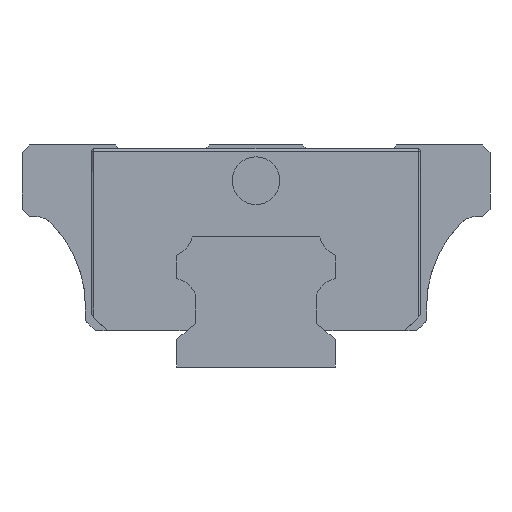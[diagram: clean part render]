
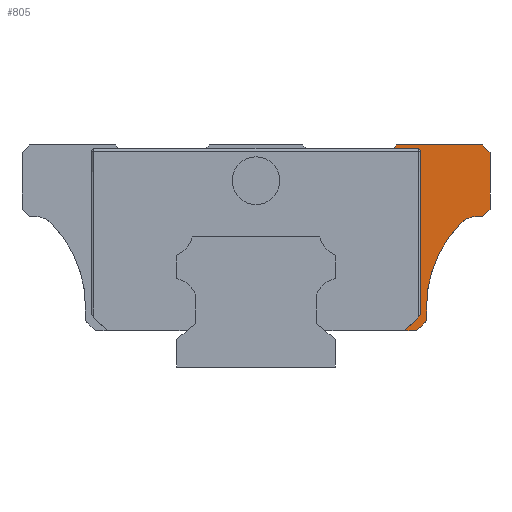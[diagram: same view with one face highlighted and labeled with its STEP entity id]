
A CAD part, left-side view. The second image highlights one B-rep face of the part: STEP entity #805.
In plain terms, the highlighted planar face has unit normal (-1, 0, 0).
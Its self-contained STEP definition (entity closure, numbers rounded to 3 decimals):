
#68 = CARTESIAN_POINT ( 'NONE',  ( -13.9, -21.5, 7.6 ) ) ;
#152 = CARTESIAN_POINT ( 'NONE',  ( -13.9, -20.25, 4.6 ) ) ;
#168 = VERTEX_POINT ( 'NONE', #1798 ) ;
#263 = ORIENTED_EDGE ( 'NONE', *, *, #3553, .T. ) ;
#288 = EDGE_CURVE ( 'NONE', #2366, #2826, #7040, .T. ) ;
#617 = DIRECTION ( 'NONE',  ( -1., 0., 0. ) ) ;
#621 = CARTESIAN_POINT ( 'NONE',  ( -13.9, -18.746, 4.6 ) ) ;
#660 = ORIENTED_EDGE ( 'NONE', *, *, #5706, .T. ) ;
#805 = ADVANCED_FACE ( 'NONE', ( #3978 ), #3363, .T. ) ;
#956 = EDGE_CURVE ( 'NONE', #6776, #2366, #2479, .T. ) ;
#976 = CARTESIAN_POINT ( 'NONE',  ( -13.9, -29.5, 27.05 ) ) ;
#1024 = DIRECTION ( 'NONE',  ( 0., 0., 1. ) ) ;
#1087 = VECTOR ( 'NONE', #3641, 1000. ) ;
#1130 = ORIENTED_EDGE ( 'NONE', *, *, #956, .T. ) ;
#1137 = EDGE_CURVE ( 'NONE', #5057, #4165, #6447, .T. ) ;
#1188 = DIRECTION ( 'NONE',  ( 0., 0., 1. ) ) ;
#1273 = DIRECTION ( 'NONE',  ( 0., 0., 1. ) ) ;
#1277 = EDGE_CURVE ( 'NONE', #3721, #3193, #3575, .T. ) ;
#1295 = CARTESIAN_POINT ( 'NONE',  ( -13.9, -21.5, 7.6 ) ) ;
#1302 = EDGE_CURVE ( 'NONE', #6923, #1640, #4160, .T. ) ;
#1323 = DIRECTION ( 'NONE',  ( 0., 1., 0. ) ) ;
#1326 = ORIENTED_EDGE ( 'NONE', *, *, #2331, .F. ) ;
#1353 = CARTESIAN_POINT ( 'NONE',  ( -13.9, -27.93, 16. ) ) ;
#1436 = VERTEX_POINT ( 'NONE', #1295 ) ;
#1437 = VERTEX_POINT ( 'NONE', #4550 ) ;
#1494 = LINE ( 'NONE', #3764, #2635 ) ;
#1586 = VECTOR ( 'NONE', #5234, 1000. ) ;
#1624 = VERTEX_POINT ( 'NONE', #976 ) ;
#1640 = VERTEX_POINT ( 'NONE', #3223 ) ;
#1674 = EDGE_CURVE ( 'NONE', #3193, #5324, #2046, .T. ) ;
#1700 = VECTOR ( 'NONE', #4386, 1000. ) ;
#1727 = ORIENTED_EDGE ( 'NONE', *, *, #1277, .F. ) ;
#1739 = CARTESIAN_POINT ( 'NONE',  ( -13.9, -20.542, 27.5 ) ) ;
#1751 = LINE ( 'NONE', #7225, #4123 ) ;
#1798 = CARTESIAN_POINT ( 'NONE',  ( -13.9, -27.93, 19. ) ) ;
#1899 = DIRECTION ( 'NONE',  ( 1., 0., 0. ) ) ;
#2046 = LINE ( 'NONE', #5413, #6626 ) ;
#2144 = EDGE_CURVE ( 'NONE', #168, #6923, #1494, .T. ) ;
#2189 = ORIENTED_EDGE ( 'NONE', *, *, #1674, .F. ) ;
#2191 = CARTESIAN_POINT ( 'NONE',  ( -13.9, -28.6, 19. ) ) ;
#2250 = LINE ( 'NONE', #1739, #6025 ) ;
#2283 = AXIS2_PLACEMENT_3D ( 'NONE', #3900, #617, #1188 ) ;
#2331 = EDGE_CURVE ( 'NONE', #1437, #2826, #2250, .T. ) ;
#2365 = EDGE_CURVE ( 'NONE', #3721, #5057, #3356, .T. ) ;
#2366 = VERTEX_POINT ( 'NONE', #6171 ) ;
#2395 = VECTOR ( 'NONE', #1323, 1000. ) ;
#2428 = CIRCLE ( 'NONE', #3246, 3. ) ;
#2436 = VECTOR ( 'NONE', #3361, 1000. ) ;
#2479 = LINE ( 'NONE', #2945, #2395 ) ;
#2580 = DIRECTION ( 'NONE',  ( 0., -0.707, 0.707 ) ) ;
#2608 = CARTESIAN_POINT ( 'NONE',  ( -13.9, -18.746, 4.6 ) ) ;
#2635 = VECTOR ( 'NONE', #4825, 1000. ) ;
#2678 = CARTESIAN_POINT ( 'NONE',  ( -13.9, -25.788, 18.1 ) ) ;
#2771 = EDGE_CURVE ( 'NONE', #1437, #5324, #6371, .T. ) ;
#2826 = VERTEX_POINT ( 'NONE', #5161 ) ;
#2839 = DIRECTION ( 'NONE',  ( 0., 0., 1. ) ) ;
#2913 = DIRECTION ( 'NONE',  ( 1., 0., 0. ) ) ;
#2945 = CARTESIAN_POINT ( 'NONE',  ( -13.9, -29.5, 28. ) ) ;
#2961 = EDGE_LOOP ( 'NONE', ( #660, #1130, #3765, #1326, #5560, #2189, #1727, #4917, #5131, #5030, #3091, #263, #6751, #5773, #5484 ) ) ;
#2969 = AXIS2_PLACEMENT_3D ( 'NONE', #5168, #1899, #5854 ) ;
#3091 = ORIENTED_EDGE ( 'NONE', *, *, #6324, .T. ) ;
#3193 = VERTEX_POINT ( 'NONE', #5718 ) ;
#3207 = CARTESIAN_POINT ( 'NONE',  ( -13.9, -28.55, 28. ) ) ;
#3223 = CARTESIAN_POINT ( 'NONE',  ( -13.9, -29.5, 19.9 ) ) ;
#3246 = AXIS2_PLACEMENT_3D ( 'NONE', #1353, #6298, #1273 ) ;
#3356 = LINE ( 'NONE', #5589, #1700 ) ;
#3361 = DIRECTION ( 'NONE',  ( 0., 0., 1. ) ) ;
#3363 = PLANE ( 'NONE',  #2283 ) ;
#3455 = VECTOR ( 'NONE', #5418, 1000. ) ;
#3553 = EDGE_CURVE ( 'NONE', #4016, #168, #2428, .T. ) ;
#3575 = LINE ( 'NONE', #621, #1586 ) ;
#3641 = DIRECTION ( 'NONE',  ( 0., 0.707, 0.707 ) ) ;
#3721 = VERTEX_POINT ( 'NONE', #2608 ) ;
#3763 = CARTESIAN_POINT ( 'NONE',  ( -13.9, -28.55, 28. ) ) ;
#3764 = CARTESIAN_POINT ( 'NONE',  ( -13.9, -28.6, 19. ) ) ;
#3765 = ORIENTED_EDGE ( 'NONE', *, *, #288, .T. ) ;
#3900 = CARTESIAN_POINT ( 'NONE',  ( -13.9, 0., 17.29 ) ) ;
#3942 = CARTESIAN_POINT ( 'NONE',  ( -13.9, -21.5, 5.85 ) ) ;
#3978 = FACE_OUTER_BOUND ( 'NONE', #2961, .T. ) ;
#4016 = VERTEX_POINT ( 'NONE', #2678 ) ;
#4039 = AXIS2_PLACEMENT_3D ( 'NONE', #5622, #2913, #2839 ) ;
#4123 = VECTOR ( 'NONE', #1024, 1000. ) ;
#4140 = CIRCLE ( 'NONE', #2969, 15. ) ;
#4146 = VECTOR ( 'NONE', #6391, 1000. ) ;
#4160 = LINE ( 'NONE', #5296, #4146 ) ;
#4165 = VERTEX_POINT ( 'NONE', #3942 ) ;
#4188 = EDGE_CURVE ( 'NONE', #4165, #1436, #5620, .T. ) ;
#4295 = CARTESIAN_POINT ( 'NONE',  ( -13.9, -17.7, 28. ) ) ;
#4386 = DIRECTION ( 'NONE',  ( 0., -1., 0. ) ) ;
#4550 = CARTESIAN_POINT ( 'NONE',  ( -13.9, -20.457, 27.5 ) ) ;
#4825 = DIRECTION ( 'NONE',  ( 0., -1., 0. ) ) ;
#4917 = ORIENTED_EDGE ( 'NONE', *, *, #2365, .T. ) ;
#5030 = ORIENTED_EDGE ( 'NONE', *, *, #4188, .T. ) ;
#5057 = VERTEX_POINT ( 'NONE', #152 ) ;
#5131 = ORIENTED_EDGE ( 'NONE', *, *, #1137, .T. ) ;
#5161 = CARTESIAN_POINT ( 'NONE',  ( -13.9, -17.28, 27.5 ) ) ;
#5168 = CARTESIAN_POINT ( 'NONE',  ( -13.9, -36.5, 7.6 ) ) ;
#5206 = VECTOR ( 'NONE', #2580, 1000. ) ;
#5234 = DIRECTION ( 'NONE',  ( 0., -0.707, 0.707 ) ) ;
#5296 = CARTESIAN_POINT ( 'NONE',  ( -13.9, -29.5, 19.9 ) ) ;
#5324 = VERTEX_POINT ( 'NONE', #6182 ) ;
#5413 = CARTESIAN_POINT ( 'NONE',  ( -13.9, -20.752, 6.6 ) ) ;
#5418 = DIRECTION ( 'NONE',  ( 0., 0.643, -0.766 ) ) ;
#5465 = EDGE_CURVE ( 'NONE', #1640, #1624, #1751, .T. ) ;
#5477 = CARTESIAN_POINT ( 'NONE',  ( -13.9, -21.5, 5.85 ) ) ;
#5484 = ORIENTED_EDGE ( 'NONE', *, *, #5465, .T. ) ;
#5560 = ORIENTED_EDGE ( 'NONE', *, *, #2771, .T. ) ;
#5562 = DIRECTION ( 'NONE',  ( 0., 0., 1. ) ) ;
#5589 = CARTESIAN_POINT ( 'NONE',  ( -13.9, -10.439, 4.6 ) ) ;
#5620 = LINE ( 'NONE', #68, #2436 ) ;
#5622 = CARTESIAN_POINT ( 'NONE',  ( -13.9, -20.457, 27.205 ) ) ;
#5706 = EDGE_CURVE ( 'NONE', #1624, #6776, #6992, .T. ) ;
#5718 = CARTESIAN_POINT ( 'NONE',  ( -13.9, -20.752, 6.605 ) ) ;
#5773 = ORIENTED_EDGE ( 'NONE', *, *, #1302, .T. ) ;
#5854 = DIRECTION ( 'NONE',  ( 0., 0., 1. ) ) ;
#6025 = VECTOR ( 'NONE', #6652, 1000. ) ;
#6171 = CARTESIAN_POINT ( 'NONE',  ( -13.9, -17.7, 28. ) ) ;
#6182 = CARTESIAN_POINT ( 'NONE',  ( -13.9, -20.752, 27.205 ) ) ;
#6298 = DIRECTION ( 'NONE',  ( 1., 0., 0. ) ) ;
#6324 = EDGE_CURVE ( 'NONE', #1436, #4016, #4140, .T. ) ;
#6371 = CIRCLE ( 'NONE', #4039, 0.295 ) ;
#6391 = DIRECTION ( 'NONE',  ( 0., -0.707, 0.707 ) ) ;
#6447 = LINE ( 'NONE', #5477, #5206 ) ;
#6626 = VECTOR ( 'NONE', #5562, 1000. ) ;
#6652 = DIRECTION ( 'NONE',  ( 0., 1., 0. ) ) ;
#6751 = ORIENTED_EDGE ( 'NONE', *, *, #2144, .T. ) ;
#6776 = VERTEX_POINT ( 'NONE', #3207 ) ;
#6923 = VERTEX_POINT ( 'NONE', #2191 ) ;
#6992 = LINE ( 'NONE', #3763, #1087 ) ;
#7040 = LINE ( 'NONE', #4295, #3455 ) ;
#7225 = CARTESIAN_POINT ( 'NONE',  ( -13.9, -29.5, 19. ) ) ;
